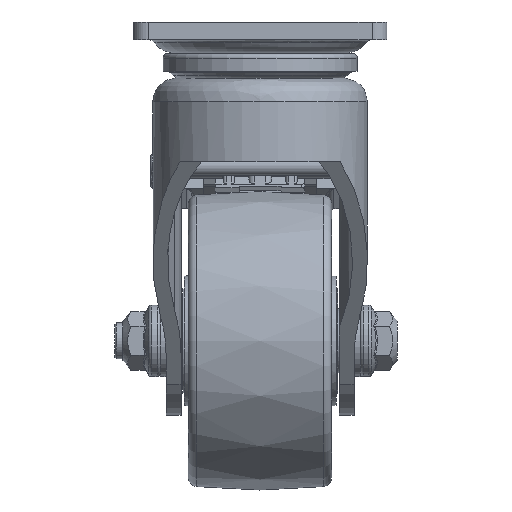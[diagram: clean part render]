
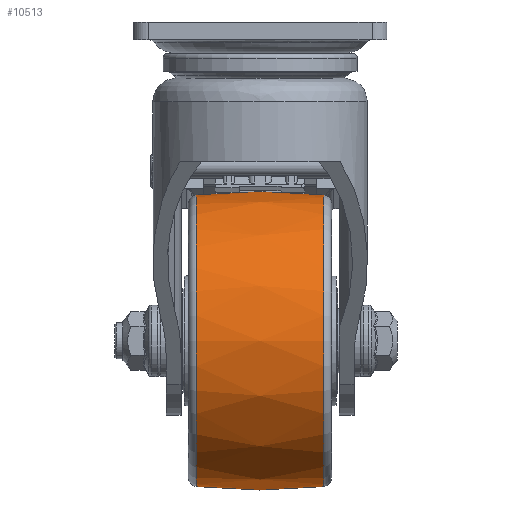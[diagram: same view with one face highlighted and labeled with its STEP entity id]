
A CAD part, left-side view. The second image highlights one B-rep face of the part: STEP entity #10513.
In plain terms, the highlighted free-form (B-spline) face has degree [2, 2] with [3, 9] control points.
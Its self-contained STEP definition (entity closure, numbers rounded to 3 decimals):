
#10452=CARTESIAN_POINT('',(50.,-21.251,-55.95));
#10453=VERTEX_POINT('',#10452);
#10454=CARTESIAN_POINT('',(50.,-21.251,-104.81));
#10455=DIRECTION('',(0.0,-1.0,0.0));
#10456=DIRECTION('',(0.0,0.0,1.0));
#10457=AXIS2_PLACEMENT_3D('',#10454,#10455,#10456);
#10458=CIRCLE('',#10457,48.86);
#10459=EDGE_CURVE('',#10453,#10453,#10458,.T.);
#10464=CARTESIAN_POINT('',(98.86,-21.251,-104.81));
#10465=CARTESIAN_POINT('',(101.146,0.068,-104.81));
#10466=CARTESIAN_POINT('',(98.86,21.388,-104.81));
#10467=CARTESIAN_POINT('',(98.86,-21.251,-55.95));
#10468=CARTESIAN_POINT('',(101.146,0.068,-53.664));
#10469=CARTESIAN_POINT('',(98.86,21.388,-55.95));
#10470=CARTESIAN_POINT('',(50.,-21.251,-55.95));
#10471=CARTESIAN_POINT('',(50.,0.068,-53.664));
#10472=CARTESIAN_POINT('',(50.,21.388,-55.95));
#10473=CARTESIAN_POINT('',(1.14,-21.251,-55.95));
#10474=CARTESIAN_POINT('',(-1.146,0.068,-53.664));
#10475=CARTESIAN_POINT('',(1.14,21.388,-55.95));
#10476=CARTESIAN_POINT('',(1.14,-21.251,-104.81));
#10477=CARTESIAN_POINT('',(-1.146,0.068,-104.81));
#10478=CARTESIAN_POINT('',(1.14,21.388,-104.81));
#10479=CARTESIAN_POINT('',(1.14,-21.251,-153.67));
#10480=CARTESIAN_POINT('',(-1.146,0.068,-155.956));
#10481=CARTESIAN_POINT('',(1.14,21.388,-153.67));
#10482=CARTESIAN_POINT('',(50.,-21.251,-153.67));
#10483=CARTESIAN_POINT('',(50.,0.068,-155.956));
#10484=CARTESIAN_POINT('',(50.,21.388,-153.67));
#10485=CARTESIAN_POINT('',(98.86,-21.251,-153.67));
#10486=CARTESIAN_POINT('',(101.146,0.068,-155.956));
#10487=CARTESIAN_POINT('',(98.86,21.388,-153.67));
#10488=CARTESIAN_POINT('',(98.86,-21.251,-104.81));
#10489=CARTESIAN_POINT('',(101.146,0.068,-104.81));
#10490=CARTESIAN_POINT('',(98.86,21.388,-104.81));
#10498=(BOUNDED_SURFACE()B_SPLINE_SURFACE(2,2,((#10464,#10467,#10470,#10473,#10476,#10479,#10482,#10485,#10488),(#10465,#10468,#10471,#10474,#10477,#10480,#10483,#10486,#10489),(#10466,#10469,#10472,#10475,#10478,#10481,#10484,#10487,#10490)),.UNSPECIFIED.,.F.,.T.,.U.)B_SPLINE_SURFACE_WITH_KNOTS((3,3),(3,2,2,2,3),(-0.107,0.107),(0.0,1.571,3.142,4.712,6.283),.UNSPECIFIED.)GEOMETRIC_REPRESENTATION_ITEM()RATIONAL_B_SPLINE_SURFACE(((1.0,0.707,1.0,0.707,1.0,0.707,1.0,0.707,1.0),(0.994,0.703,0.994,0.703,0.994,0.703,0.994,0.703,0.994),(1.0,0.707,1.0,0.707,1.0,0.707,1.0,0.707,1.0)))REPRESENTATION_ITEM('')SURFACE());
#10499=ORIENTED_EDGE('',*,*,#10459,.F.);
#10500=EDGE_LOOP('',(#10499));
#10501=FACE_OUTER_BOUND('',#10500,.T.);
#10502=CARTESIAN_POINT('',(50.,21.388,-55.95));
#10503=VERTEX_POINT('',#10502);
#10504=CARTESIAN_POINT('',(50.,21.388,-104.81));
#10505=DIRECTION('',(0.0,-1.0,0.0));
#10506=DIRECTION('',(0.0,0.0,1.0));
#10507=AXIS2_PLACEMENT_3D('',#10504,#10505,#10506);
#10508=CIRCLE('',#10507,48.86);
#10509=EDGE_CURVE('',#10503,#10503,#10508,.T.);
#10510=ORIENTED_EDGE('',*,*,#10509,.T.);
#10511=EDGE_LOOP('',(#10510));
#10512=FACE_BOUND('',#10511,.T.);
#10513=ADVANCED_FACE('',(#10501,#10512),#10498,.T.);
